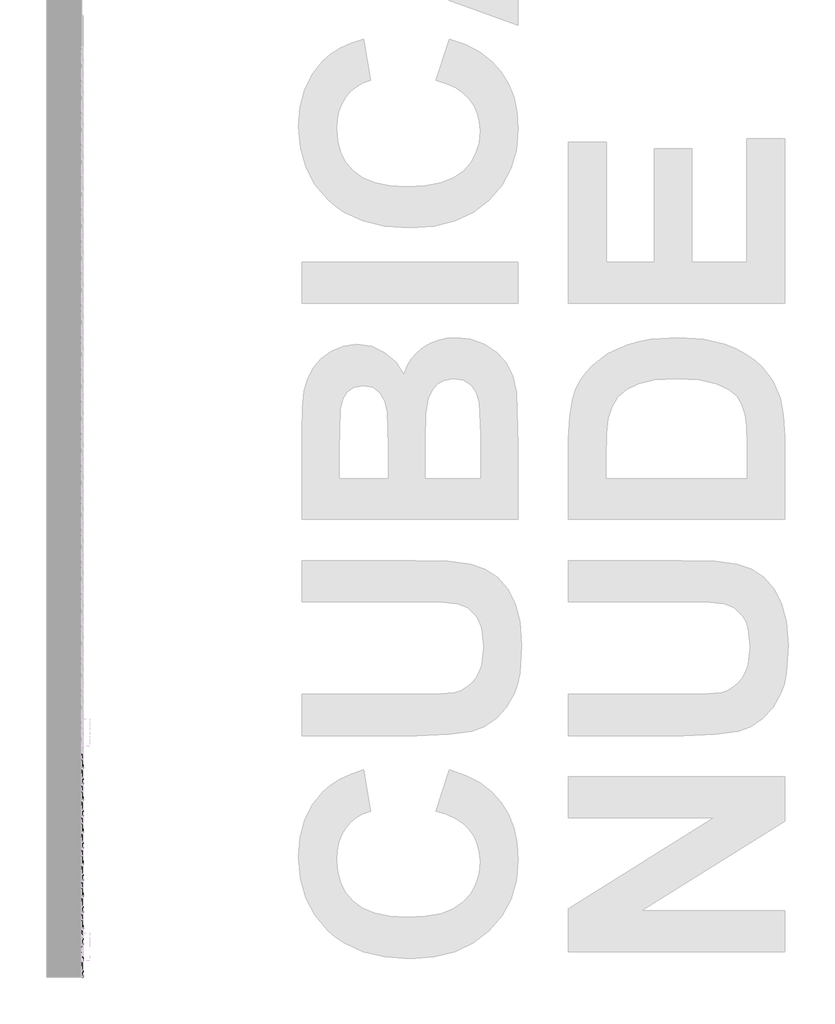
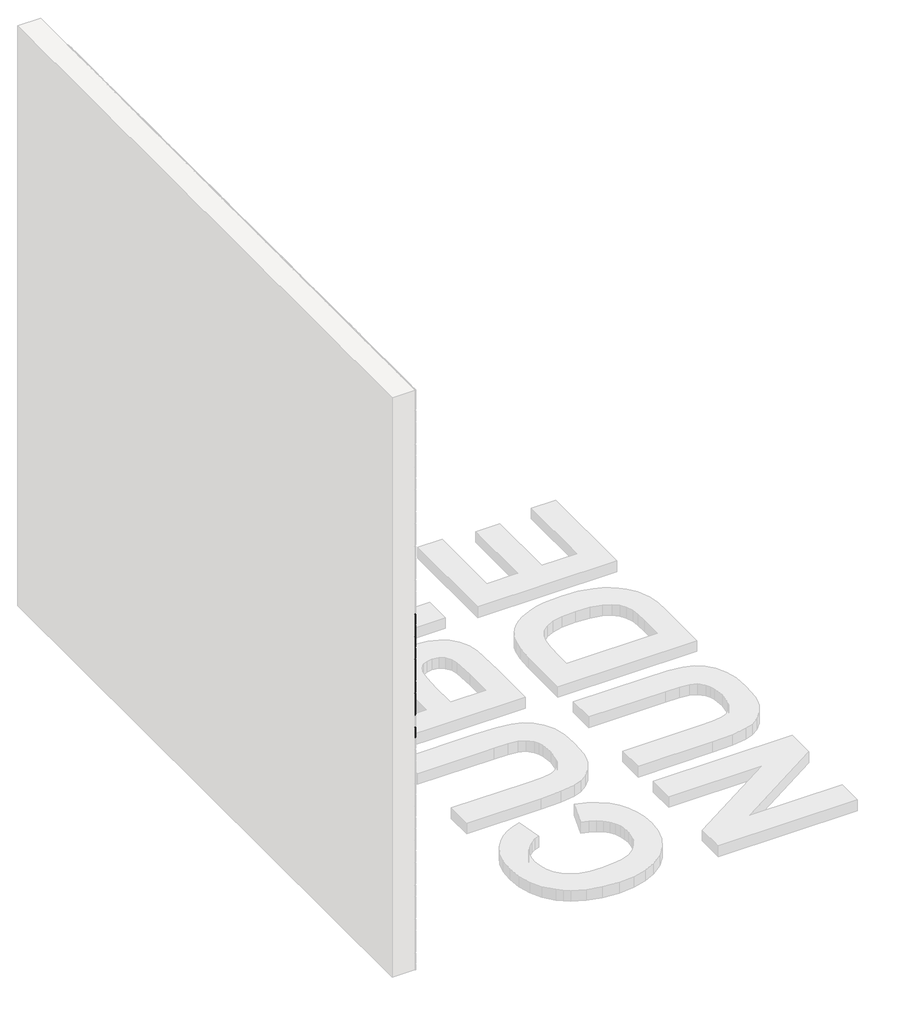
# One storey, part 51 of 121: 144 proxies.
"""IFC4 building model written with IfcOpenShell, lengths in millimetres."""

from ifc_helpers import new_model, si_unit, origin, place, context, project, spatial, transform, mapped, element, save
from components import generic_models_b2b2c5c1, generic_models_9bf73f6f, generic_models_5d175859, generic_models_45888c4d

model = new_model("IFC4")

# Units and contexts
model_context = context("Model", 3, world=origin())
ifc_project = project(units=[si_unit("LENGTHUNIT", "METRE", prefix="MILLI")], contexts=[model_context])

# Site, building, storey
site = spatial("IfcSite", under=ifc_project)
building = spatial("IfcBuilding", under=site)
storey = spatial("IfcBuildingStorey", under=building, Name="PORTOBELLO - SHOWROOM", Elevation=0.0)

# Proxies
placement = place(None, origin())
generic_models_shape = generic_models_b2b2c5c1(model_context)
element("IfcBuildingElementProxy", 1, Name="PBSHOP - CUBICA NUDE 4,8X8,3 : CUBICA NUDE - POSIÇÃO 01", ObjectType="PBSHOP - CUBICA NUDE 4,8X8,3 : CUBICA NUDE - POSIÇÃO 01", at=placement, inside=storey, context=model_context, shape_type="MappedRepresentation", body=[
    mapped(generic_models_shape, transform((150369.5341846, 6850.7440918, 1144.507104), x_axis=(0.0, 1.0, 0.0), y_axis=(0.0, 0.0, 1.0), z_axis=(1.0, 0.0, 0.0))),
])
element("IfcBuildingElementProxy", 2, Name="PBSHOP - CUBICA NUDE 4,8X8,3 : CUBICA NUDE - POSIÇÃO 01", ObjectType="PBSHOP - CUBICA NUDE 4,8X8,3 : CUBICA NUDE - POSIÇÃO 01", at=placement, inside=storey, context=model_context, shape_type="MappedRepresentation", body=[
    mapped(generic_models_shape, transform((150369.5341846, 6941.583361, 1144.507104), x_axis=(0.0, 1.0, 0.0), y_axis=(0.0, 0.0, 1.0), z_axis=(1.0, 0.0, 0.0))),
])
element("IfcBuildingElementProxy", 3, Name="PBSHOP - CUBICA NUDE 4,8X8,3 : CUBICA NUDE - POSIÇÃO 01", ObjectType="PBSHOP - CUBICA NUDE 4,8X8,3 : CUBICA NUDE - POSIÇÃO 01", at=placement, inside=storey, context=model_context, shape_type="MappedRepresentation", body=[
    mapped(generic_models_shape, transform((150369.5341846, 6441.9673802, 1223.4417424), x_axis=(0.0, 1.0, 0.0), y_axis=(0.0, 0.0, 1.0), z_axis=(1.0, 0.0, 0.0))),
])
element("IfcBuildingElementProxy", 4, Name="PBSHOP - CUBICA NUDE 4,8X8,3 : CUBICA NUDE - POSIÇÃO 01", ObjectType="PBSHOP - CUBICA NUDE 4,8X8,3 : CUBICA NUDE - POSIÇÃO 01", at=placement, inside=storey, context=model_context, shape_type="MappedRepresentation", body=[
    mapped(generic_models_shape, transform((150369.5341846, 6532.8066494, 1223.4417424), x_axis=(0.0, 1.0, 0.0), y_axis=(0.0, 0.0, 1.0), z_axis=(1.0, 0.0, 0.0))),
])
element("IfcBuildingElementProxy", 5, Name="PBSHOP - CUBICA NUDE 4,8X8,3 : CUBICA NUDE - POSIÇÃO 01", ObjectType="PBSHOP - CUBICA NUDE 4,8X8,3 : CUBICA NUDE - POSIÇÃO 01", at=placement, inside=storey, context=model_context, shape_type="MappedRepresentation", body=[
    mapped(generic_models_shape, transform((150369.5341846, 6623.6459187, 1223.4417424), x_axis=(0.0, 1.0, 0.0), y_axis=(0.0, 0.0, 1.0), z_axis=(1.0, 0.0, 0.0))),
])
element("IfcBuildingElementProxy", 6, Name="PBSHOP - CUBICA NUDE 4,8X8,3 : CUBICA NUDE - POSIÇÃO 01", ObjectType="PBSHOP - CUBICA NUDE 4,8X8,3 : CUBICA NUDE - POSIÇÃO 01", at=placement, inside=storey, context=model_context, shape_type="MappedRepresentation", body=[
    mapped(generic_models_shape, transform((150369.5341846, 6714.4851879, 1223.4417424), x_axis=(0.0, 1.0, 0.0), y_axis=(0.0, 0.0, 1.0), z_axis=(1.0, 0.0, 0.0))),
])
element("IfcBuildingElementProxy", 7, Name="PBSHOP - CUBICA NUDE 4,8X8,3 : CUBICA NUDE - POSIÇÃO 01", ObjectType="PBSHOP - CUBICA NUDE 4,8X8,3 : CUBICA NUDE - POSIÇÃO 01", at=placement, inside=storey, context=model_context, shape_type="MappedRepresentation", body=[
    mapped(generic_models_shape, transform((150369.5341846, 6805.3244572, 1223.4417424), x_axis=(0.0, 1.0, 0.0), y_axis=(0.0, 0.0, 1.0), z_axis=(1.0, 0.0, 0.0))),
])
element("IfcBuildingElementProxy", 8, Name="PBSHOP - CUBICA NUDE 4,8X8,3 : CUBICA NUDE - POSIÇÃO 01", ObjectType="PBSHOP - CUBICA NUDE 4,8X8,3 : CUBICA NUDE - POSIÇÃO 01", at=placement, inside=storey, context=model_context, shape_type="MappedRepresentation", body=[
    mapped(generic_models_shape, transform((150369.5341846, 6896.1637264, 1223.4417424), x_axis=(0.0, 1.0, 0.0), y_axis=(0.0, 0.0, 1.0), z_axis=(1.0, 0.0, 0.0))),
])
element("IfcBuildingElementProxy", 9, Name="PBSHOP - CUBICA NUDE 4,8X8,3 : CUBICA NUDE - POSIÇÃO 01", ObjectType="PBSHOP - CUBICA NUDE 4,8X8,3 : CUBICA NUDE - POSIÇÃO 01", at=placement, inside=storey, context=model_context, shape_type="MappedRepresentation", body=[
    mapped(generic_models_shape, transform((150369.5341846, 6987.0029957, 1223.4417424), x_axis=(0.0, 1.0, 0.0), y_axis=(0.0, 0.0, 1.0), z_axis=(1.0, 0.0, 0.0))),
])
element("IfcBuildingElementProxy", 10, Name="PBSHOP - CUBICA NUDE 4,8X8,3 : CUBICA NUDE - POSIÇÃO 01", ObjectType="PBSHOP - CUBICA NUDE 4,8X8,3 : CUBICA NUDE - POSIÇÃO 01", at=placement, inside=storey, context=model_context, shape_type="MappedRepresentation", body=[
    mapped(generic_models_shape, transform((150369.5341846, 6396.5477456, 1302.3763808), x_axis=(0.0, 1.0, 0.0), y_axis=(0.0, 0.0, 1.0), z_axis=(1.0, 0.0, 0.0))),
])
element("IfcBuildingElementProxy", 11, Name="PBSHOP - CUBICA NUDE 4,8X8,3 : CUBICA NUDE - POSIÇÃO 01", ObjectType="PBSHOP - CUBICA NUDE 4,8X8,3 : CUBICA NUDE - POSIÇÃO 01", at=placement, inside=storey, context=model_context, shape_type="MappedRepresentation", body=[
    mapped(generic_models_shape, transform((150369.5341846, 6487.3870148, 1302.3763808), x_axis=(0.0, 1.0, 0.0), y_axis=(0.0, 0.0, 1.0), z_axis=(1.0, 0.0, 0.0))),
])
element("IfcBuildingElementProxy", 12, Name="PBSHOP - CUBICA NUDE 4,8X8,3 : CUBICA NUDE - POSIÇÃO 01", ObjectType="PBSHOP - CUBICA NUDE 4,8X8,3 : CUBICA NUDE - POSIÇÃO 01", at=placement, inside=storey, context=model_context, shape_type="MappedRepresentation", body=[
    mapped(generic_models_shape, transform((150369.5341846, 6578.2262841, 1302.3763808), x_axis=(0.0, 1.0, 0.0), y_axis=(0.0, 0.0, 1.0), z_axis=(1.0, 0.0, 0.0))),
])
element("IfcBuildingElementProxy", 13, Name="PBSHOP - CUBICA NUDE 4,8X8,3 : CUBICA NUDE - POSIÇÃO 01", ObjectType="PBSHOP - CUBICA NUDE 4,8X8,3 : CUBICA NUDE - POSIÇÃO 01", at=placement, inside=storey, context=model_context, shape_type="MappedRepresentation", body=[
    mapped(generic_models_shape, transform((150369.5341846, 6669.0655533, 1302.3763808), x_axis=(0.0, 1.0, 0.0), y_axis=(0.0, 0.0, 1.0), z_axis=(1.0, 0.0, 0.0))),
])
element("IfcBuildingElementProxy", 14, Name="PBSHOP - CUBICA NUDE 4,8X8,3 : CUBICA NUDE - POSIÇÃO 01", ObjectType="PBSHOP - CUBICA NUDE 4,8X8,3 : CUBICA NUDE - POSIÇÃO 01", at=placement, inside=storey, context=model_context, shape_type="MappedRepresentation", body=[
    mapped(generic_models_shape, transform((150369.5341846, 6759.9048225, 1302.3763808), x_axis=(0.0, 1.0, 0.0), y_axis=(0.0, 0.0, 1.0), z_axis=(1.0, 0.0, 0.0))),
])
element("IfcBuildingElementProxy", 15, Name="PBSHOP - CUBICA NUDE 4,8X8,3 : CUBICA NUDE - POSIÇÃO 01", ObjectType="PBSHOP - CUBICA NUDE 4,8X8,3 : CUBICA NUDE - POSIÇÃO 01", at=placement, inside=storey, context=model_context, shape_type="MappedRepresentation", body=[
    mapped(generic_models_shape, transform((150369.5341846, 6850.7440918, 1302.3763808), x_axis=(0.0, 1.0, 0.0), y_axis=(0.0, 0.0, 1.0), z_axis=(1.0, 0.0, 0.0))),
])
element("IfcBuildingElementProxy", 16, Name="PBSHOP - CUBICA NUDE 4,8X8,3 : CUBICA NUDE - POSIÇÃO 01", ObjectType="PBSHOP - CUBICA NUDE 4,8X8,3 : CUBICA NUDE - POSIÇÃO 01", at=placement, inside=storey, context=model_context, shape_type="MappedRepresentation", body=[
    mapped(generic_models_shape, transform((150369.5341846, 6941.583361, 1302.3763808), x_axis=(0.0, 1.0, 0.0), y_axis=(0.0, 0.0, 1.0), z_axis=(1.0, 0.0, 0.0))),
])
element("IfcBuildingElementProxy", 17, Name="PBSHOP - CUBICA NUDE 4,8X8,3 : CUBICA NUDE - POSIÇÃO 01", ObjectType="PBSHOP - CUBICA NUDE 4,8X8,3 : CUBICA NUDE - POSIÇÃO 01", at=placement, inside=storey, context=model_context, shape_type="MappedRepresentation", body=[
    mapped(generic_models_shape, transform((150369.5341846, 6441.9673802, 1381.3110192), x_axis=(0.0, 1.0, 0.0), y_axis=(0.0, 0.0, 1.0), z_axis=(1.0, 0.0, 0.0))),
])
element("IfcBuildingElementProxy", 18, Name="PBSHOP - CUBICA NUDE 4,8X8,3 : CUBICA NUDE - POSIÇÃO 01", ObjectType="PBSHOP - CUBICA NUDE 4,8X8,3 : CUBICA NUDE - POSIÇÃO 01", at=placement, inside=storey, context=model_context, shape_type="MappedRepresentation", body=[
    mapped(generic_models_shape, transform((150369.5341846, 6532.8066494, 1381.3110192), x_axis=(0.0, 1.0, 0.0), y_axis=(0.0, 0.0, 1.0), z_axis=(1.0, 0.0, 0.0))),
])
element("IfcBuildingElementProxy", 19, Name="PBSHOP - CUBICA NUDE 4,8X8,3 : CUBICA NUDE - POSIÇÃO 01", ObjectType="PBSHOP - CUBICA NUDE 4,8X8,3 : CUBICA NUDE - POSIÇÃO 01", at=placement, inside=storey, context=model_context, shape_type="MappedRepresentation", body=[
    mapped(generic_models_shape, transform((150369.5341846, 6623.6459187, 1381.3110192), x_axis=(0.0, 1.0, 0.0), y_axis=(0.0, 0.0, 1.0), z_axis=(1.0, 0.0, 0.0))),
])
element("IfcBuildingElementProxy", 20, Name="PBSHOP - CUBICA NUDE 4,8X8,3 : CUBICA NUDE - POSIÇÃO 01", ObjectType="PBSHOP - CUBICA NUDE 4,8X8,3 : CUBICA NUDE - POSIÇÃO 01", at=placement, inside=storey, context=model_context, shape_type="MappedRepresentation", body=[
    mapped(generic_models_shape, transform((150369.5341846, 6714.4851879, 1381.3110192), x_axis=(0.0, 1.0, 0.0), y_axis=(0.0, 0.0, 1.0), z_axis=(1.0, 0.0, 0.0))),
])
element("IfcBuildingElementProxy", 21, Name="PBSHOP - CUBICA NUDE 4,8X8,3 : CUBICA NUDE - POSIÇÃO 01", ObjectType="PBSHOP - CUBICA NUDE 4,8X8,3 : CUBICA NUDE - POSIÇÃO 01", at=placement, inside=storey, context=model_context, shape_type="MappedRepresentation", body=[
    mapped(generic_models_shape, transform((150369.5341846, 6805.3244572, 1381.3110192), x_axis=(0.0, 1.0, 0.0), y_axis=(0.0, 0.0, 1.0), z_axis=(1.0, 0.0, 0.0))),
])
element("IfcBuildingElementProxy", 22, Name="PBSHOP - CUBICA NUDE 4,8X8,3 : CUBICA NUDE - POSIÇÃO 01", ObjectType="PBSHOP - CUBICA NUDE 4,8X8,3 : CUBICA NUDE - POSIÇÃO 01", at=placement, inside=storey, context=model_context, shape_type="MappedRepresentation", body=[
    mapped(generic_models_shape, transform((150369.5341846, 6896.1637264, 1381.3110192), x_axis=(0.0, 1.0, 0.0), y_axis=(0.0, 0.0, 1.0), z_axis=(1.0, 0.0, 0.0))),
])
element("IfcBuildingElementProxy", 23, Name="PBSHOP - CUBICA NUDE 4,8X8,3 : CUBICA NUDE - POSIÇÃO 01", ObjectType="PBSHOP - CUBICA NUDE 4,8X8,3 : CUBICA NUDE - POSIÇÃO 01", at=placement, inside=storey, context=model_context, shape_type="MappedRepresentation", body=[
    mapped(generic_models_shape, transform((150369.5341846, 6987.0029957, 1381.3110192), x_axis=(0.0, 1.0, 0.0), y_axis=(0.0, 0.0, 1.0), z_axis=(1.0, 0.0, 0.0))),
])
element("IfcBuildingElementProxy", 24, Name="PBSHOP - CUBICA NUDE 4,8X8,3 : CUBICA NUDE - POSIÇÃO 01", ObjectType="PBSHOP - CUBICA NUDE 4,8X8,3 : CUBICA NUDE - POSIÇÃO 01", at=placement, inside=storey, context=model_context, shape_type="MappedRepresentation", body=[
    mapped(generic_models_shape, transform((150369.5341846, 6396.5477456, 1460.2456575), x_axis=(0.0, 1.0, 0.0), y_axis=(0.0, 0.0, 1.0), z_axis=(1.0, 0.0, 0.0))),
])
element("IfcBuildingElementProxy", 25, Name="PBSHOP - CUBICA NUDE 4,8X8,3 : CUBICA NUDE - POSIÇÃO 01", ObjectType="PBSHOP - CUBICA NUDE 4,8X8,3 : CUBICA NUDE - POSIÇÃO 01", at=placement, inside=storey, context=model_context, shape_type="MappedRepresentation", body=[
    mapped(generic_models_shape, transform((150369.5341846, 6487.3870148, 1460.2456575), x_axis=(0.0, 1.0, 0.0), y_axis=(0.0, 0.0, 1.0), z_axis=(1.0, 0.0, 0.0))),
])
element("IfcBuildingElementProxy", 26, Name="PBSHOP - CUBICA NUDE 4,8X8,3 : CUBICA NUDE - POSIÇÃO 01", ObjectType="PBSHOP - CUBICA NUDE 4,8X8,3 : CUBICA NUDE - POSIÇÃO 01", at=placement, inside=storey, context=model_context, shape_type="MappedRepresentation", body=[
    mapped(generic_models_shape, transform((150369.5341846, 6578.2262841, 1460.2456575), x_axis=(0.0, 1.0, 0.0), y_axis=(0.0, 0.0, 1.0), z_axis=(1.0, 0.0, 0.0))),
])
element("IfcBuildingElementProxy", 27, Name="PBSHOP - CUBICA NUDE 4,8X8,3 : CUBICA NUDE - POSIÇÃO 01", ObjectType="PBSHOP - CUBICA NUDE 4,8X8,3 : CUBICA NUDE - POSIÇÃO 01", at=placement, inside=storey, context=model_context, shape_type="MappedRepresentation", body=[
    mapped(generic_models_shape, transform((150369.5341846, 6669.0655533, 1460.2456575), x_axis=(0.0, 1.0, 0.0), y_axis=(0.0, 0.0, 1.0), z_axis=(1.0, 0.0, 0.0))),
])
element("IfcBuildingElementProxy", 28, Name="PBSHOP - CUBICA NUDE 4,8X8,3 : CUBICA NUDE - POSIÇÃO 01", ObjectType="PBSHOP - CUBICA NUDE 4,8X8,3 : CUBICA NUDE - POSIÇÃO 01", at=placement, inside=storey, context=model_context, shape_type="MappedRepresentation", body=[
    mapped(generic_models_shape, transform((150369.5341846, 6759.9048225, 1460.2456575), x_axis=(0.0, 1.0, 0.0), y_axis=(0.0, 0.0, 1.0), z_axis=(1.0, 0.0, 0.0))),
])
element("IfcBuildingElementProxy", 29, Name="PBSHOP - CUBICA NUDE 4,8X8,3 : CUBICA NUDE - POSIÇÃO 01", ObjectType="PBSHOP - CUBICA NUDE 4,8X8,3 : CUBICA NUDE - POSIÇÃO 01", at=placement, inside=storey, context=model_context, shape_type="MappedRepresentation", body=[
    mapped(generic_models_shape, transform((150369.5341846, 6850.7440918, 1460.2456575), x_axis=(0.0, 1.0, 0.0), y_axis=(0.0, 0.0, 1.0), z_axis=(1.0, 0.0, 0.0))),
])
element("IfcBuildingElementProxy", 30, Name="PBSHOP - CUBICA NUDE 4,8X8,3 : CUBICA NUDE - POSIÇÃO 01", ObjectType="PBSHOP - CUBICA NUDE 4,8X8,3 : CUBICA NUDE - POSIÇÃO 01", at=placement, inside=storey, context=model_context, shape_type="MappedRepresentation", body=[
    mapped(generic_models_shape, transform((150369.5341846, 6941.583361, 1460.2456575), x_axis=(0.0, 1.0, 0.0), y_axis=(0.0, 0.0, 1.0), z_axis=(1.0, 0.0, 0.0))),
])
element("IfcBuildingElementProxy", 31, Name="PBSHOP - CUBICA NUDE 4,8X8,3 : CUBICA NUDE - POSIÇÃO 01", ObjectType="PBSHOP - CUBICA NUDE 4,8X8,3 : CUBICA NUDE - POSIÇÃO 01", at=placement, inside=storey, context=model_context, shape_type="MappedRepresentation", body=[
    mapped(generic_models_shape, transform((150369.5341846, 6441.9673802, 1539.1802959), x_axis=(0.0, 1.0, 0.0), y_axis=(0.0, 0.0, 1.0), z_axis=(1.0, 0.0, 0.0))),
])
element("IfcBuildingElementProxy", 32, Name="PBSHOP - CUBICA NUDE 4,8X8,3 : CUBICA NUDE - POSIÇÃO 01", ObjectType="PBSHOP - CUBICA NUDE 4,8X8,3 : CUBICA NUDE - POSIÇÃO 01", at=placement, inside=storey, context=model_context, shape_type="MappedRepresentation", body=[
    mapped(generic_models_shape, transform((150369.5341846, 6532.8066494, 1539.1802959), x_axis=(0.0, 1.0, 0.0), y_axis=(0.0, 0.0, 1.0), z_axis=(1.0, 0.0, 0.0))),
])
element("IfcBuildingElementProxy", 33, Name="PBSHOP - CUBICA NUDE 4,8X8,3 : CUBICA NUDE - POSIÇÃO 01", ObjectType="PBSHOP - CUBICA NUDE 4,8X8,3 : CUBICA NUDE - POSIÇÃO 01", at=placement, inside=storey, context=model_context, shape_type="MappedRepresentation", body=[
    mapped(generic_models_shape, transform((150369.5341846, 6623.6459187, 1539.1802959), x_axis=(0.0, 1.0, 0.0), y_axis=(0.0, 0.0, 1.0), z_axis=(1.0, 0.0, 0.0))),
])
element("IfcBuildingElementProxy", 34, Name="PBSHOP - CUBICA NUDE 4,8X8,3 : CUBICA NUDE - POSIÇÃO 01", ObjectType="PBSHOP - CUBICA NUDE 4,8X8,3 : CUBICA NUDE - POSIÇÃO 01", at=placement, inside=storey, context=model_context, shape_type="MappedRepresentation", body=[
    mapped(generic_models_shape, transform((150369.5341846, 6714.4851879, 1539.1802959), x_axis=(0.0, 1.0, 0.0), y_axis=(0.0, 0.0, 1.0), z_axis=(1.0, 0.0, 0.0))),
])
element("IfcBuildingElementProxy", 35, Name="PBSHOP - CUBICA NUDE 4,8X8,3 : CUBICA NUDE - POSIÇÃO 01", ObjectType="PBSHOP - CUBICA NUDE 4,8X8,3 : CUBICA NUDE - POSIÇÃO 01", at=placement, inside=storey, context=model_context, shape_type="MappedRepresentation", body=[
    mapped(generic_models_shape, transform((150369.5341846, 6805.3244572, 1539.1802959), x_axis=(0.0, 1.0, 0.0), y_axis=(0.0, 0.0, 1.0), z_axis=(1.0, 0.0, 0.0))),
])
element("IfcBuildingElementProxy", 36, Name="PBSHOP - CUBICA NUDE 4,8X8,3 : CUBICA NUDE - POSIÇÃO 01", ObjectType="PBSHOP - CUBICA NUDE 4,8X8,3 : CUBICA NUDE - POSIÇÃO 01", at=placement, inside=storey, context=model_context, shape_type="MappedRepresentation", body=[
    mapped(generic_models_shape, transform((150369.5341846, 6896.1637264, 1539.1802959), x_axis=(0.0, 1.0, 0.0), y_axis=(0.0, 0.0, 1.0), z_axis=(1.0, 0.0, 0.0))),
])
element("IfcBuildingElementProxy", 37, Name="PBSHOP - CUBICA NUDE 4,8X8,3 : CUBICA NUDE - POSIÇÃO 01", ObjectType="PBSHOP - CUBICA NUDE 4,8X8,3 : CUBICA NUDE - POSIÇÃO 01", at=placement, inside=storey, context=model_context, shape_type="MappedRepresentation", body=[
    mapped(generic_models_shape, transform((150369.5341846, 6987.0029957, 1539.1802959), x_axis=(0.0, 1.0, 0.0), y_axis=(0.0, 0.0, 1.0), z_axis=(1.0, 0.0, 0.0))),
])
element("IfcBuildingElementProxy", 38, Name="PBSHOP - CUBICA NUDE 4,8X8,3 : CUBICA NUDE - POSIÇÃO 01", ObjectType="PBSHOP - CUBICA NUDE 4,8X8,3 : CUBICA NUDE - POSIÇÃO 01", at=placement, inside=storey, context=model_context, shape_type="MappedRepresentation", body=[
    mapped(generic_models_shape, transform((150369.5341846, 6396.5477456, 1618.1149343), x_axis=(0.0, 1.0, 0.0), y_axis=(0.0, 0.0, 1.0), z_axis=(1.0, 0.0, 0.0))),
])
element("IfcBuildingElementProxy", 39, Name="PBSHOP - CUBICA NUDE 4,8X8,3 : CUBICA NUDE - POSIÇÃO 01", ObjectType="PBSHOP - CUBICA NUDE 4,8X8,3 : CUBICA NUDE - POSIÇÃO 01", at=placement, inside=storey, context=model_context, shape_type="MappedRepresentation", body=[
    mapped(generic_models_shape, transform((150369.5341846, 6487.3870148, 1618.1149343), x_axis=(0.0, 1.0, 0.0), y_axis=(0.0, 0.0, 1.0), z_axis=(1.0, 0.0, 0.0))),
])
element("IfcBuildingElementProxy", 40, Name="PBSHOP - CUBICA NUDE 4,8X8,3 : CUBICA NUDE - POSIÇÃO 01", ObjectType="PBSHOP - CUBICA NUDE 4,8X8,3 : CUBICA NUDE - POSIÇÃO 01", at=placement, inside=storey, context=model_context, shape_type="MappedRepresentation", body=[
    mapped(generic_models_shape, transform((150369.5341846, 6578.2262841, 1618.1149343), x_axis=(0.0, 1.0, 0.0), y_axis=(0.0, 0.0, 1.0), z_axis=(1.0, 0.0, 0.0))),
])
element("IfcBuildingElementProxy", 41, Name="PBSHOP - CUBICA NUDE 4,8X8,3 : CUBICA NUDE - POSIÇÃO 01", ObjectType="PBSHOP - CUBICA NUDE 4,8X8,3 : CUBICA NUDE - POSIÇÃO 01", at=placement, inside=storey, context=model_context, shape_type="MappedRepresentation", body=[
    mapped(generic_models_shape, transform((150369.5341846, 6669.0655533, 1618.1149343), x_axis=(0.0, 1.0, 0.0), y_axis=(0.0, 0.0, 1.0), z_axis=(1.0, 0.0, 0.0))),
])
element("IfcBuildingElementProxy", 42, Name="PBSHOP - CUBICA NUDE 4,8X8,3 : CUBICA NUDE - POSIÇÃO 01", ObjectType="PBSHOP - CUBICA NUDE 4,8X8,3 : CUBICA NUDE - POSIÇÃO 01", at=placement, inside=storey, context=model_context, shape_type="MappedRepresentation", body=[
    mapped(generic_models_shape, transform((150369.5341846, 6759.9048225, 1618.1149343), x_axis=(0.0, 1.0, 0.0), y_axis=(0.0, 0.0, 1.0), z_axis=(1.0, 0.0, 0.0))),
])
element("IfcBuildingElementProxy", 43, Name="PBSHOP - CUBICA NUDE 4,8X8,3 : CUBICA NUDE - POSIÇÃO 01", ObjectType="PBSHOP - CUBICA NUDE 4,8X8,3 : CUBICA NUDE - POSIÇÃO 01", at=placement, inside=storey, context=model_context, shape_type="MappedRepresentation", body=[
    mapped(generic_models_shape, transform((150369.5341846, 6850.7440918, 1618.1149343), x_axis=(0.0, 1.0, 0.0), y_axis=(0.0, 0.0, 1.0), z_axis=(1.0, 0.0, 0.0))),
])
element("IfcBuildingElementProxy", 44, Name="PBSHOP - CUBICA NUDE 4,8X8,3 : CUBICA NUDE - POSIÇÃO 01", ObjectType="PBSHOP - CUBICA NUDE 4,8X8,3 : CUBICA NUDE - POSIÇÃO 01", at=placement, inside=storey, context=model_context, shape_type="MappedRepresentation", body=[
    mapped(generic_models_shape, transform((150369.5341846, 6941.583361, 1618.1149343), x_axis=(0.0, 1.0, 0.0), y_axis=(0.0, 0.0, 1.0), z_axis=(1.0, 0.0, 0.0))),
])
element("IfcBuildingElementProxy", 45, Name="PBSHOP - CUBICA NUDE 4,8X8,3 : CUBICA NUDE - POSIÇÃO 01", ObjectType="PBSHOP - CUBICA NUDE 4,8X8,3 : CUBICA NUDE - POSIÇÃO 01", at=placement, inside=storey, context=model_context, shape_type="MappedRepresentation", body=[
    mapped(generic_models_shape, transform((150369.5341846, 6441.9673802, 1697.0495727), x_axis=(0.0, 1.0, 0.0), y_axis=(0.0, 0.0, 1.0), z_axis=(1.0, 0.0, 0.0))),
])
element("IfcBuildingElementProxy", 46, Name="PBSHOP - CUBICA NUDE 4,8X8,3 : CUBICA NUDE - POSIÇÃO 01", ObjectType="PBSHOP - CUBICA NUDE 4,8X8,3 : CUBICA NUDE - POSIÇÃO 01", at=placement, inside=storey, context=model_context, shape_type="MappedRepresentation", body=[
    mapped(generic_models_shape, transform((150369.5341846, 6532.8066494, 1697.0495727), x_axis=(0.0, 1.0, 0.0), y_axis=(0.0, 0.0, 1.0), z_axis=(1.0, 0.0, 0.0))),
])
element("IfcBuildingElementProxy", 47, Name="PBSHOP - CUBICA NUDE 4,8X8,3 : CUBICA NUDE - POSIÇÃO 01", ObjectType="PBSHOP - CUBICA NUDE 4,8X8,3 : CUBICA NUDE - POSIÇÃO 01", at=placement, inside=storey, context=model_context, shape_type="MappedRepresentation", body=[
    mapped(generic_models_shape, transform((150369.5341846, 6623.6459187, 1697.0495727), x_axis=(0.0, 1.0, 0.0), y_axis=(0.0, 0.0, 1.0), z_axis=(1.0, 0.0, 0.0))),
])
generic_models_2_shape = generic_models_9bf73f6f(model_context)
element("IfcBuildingElementProxy", 48, Name="PBSHOP - CUBICA NUDE 4,8X8,3 : CUBICA NUDE - POSIÇÃO 03", ObjectType="PBSHOP - CUBICA NUDE 4,8X8,3 : CUBICA NUDE - POSIÇÃO 03", at=placement, inside=storey, context=model_context, shape_type="MappedRepresentation", body=[
    mapped(generic_models_2_shape, transform((150369.5341846, 6464.6793567, 1104.9985744), x_axis=(0.0, 1.0, 0.0), y_axis=(0.0, 0.0, 1.0), z_axis=(1.0, 0.0, 0.0))),
])
element("IfcBuildingElementProxy", 49, Name="PBSHOP - CUBICA NUDE 4,8X8,3 : CUBICA NUDE - POSIÇÃO 03", ObjectType="PBSHOP - CUBICA NUDE 4,8X8,3 : CUBICA NUDE - POSIÇÃO 03", at=placement, inside=storey, context=model_context, shape_type="MappedRepresentation", body=[
    mapped(generic_models_2_shape, transform((150369.5341846, 6555.5186259, 1104.9985744), x_axis=(0.0, 1.0, 0.0), y_axis=(0.0, 0.0, 1.0), z_axis=(1.0, 0.0, 0.0))),
])
element("IfcBuildingElementProxy", 50, Name="PBSHOP - CUBICA NUDE 4,8X8,3 : CUBICA NUDE - POSIÇÃO 03", ObjectType="PBSHOP - CUBICA NUDE 4,8X8,3 : CUBICA NUDE - POSIÇÃO 03", at=placement, inside=storey, context=model_context, shape_type="MappedRepresentation", body=[
    mapped(generic_models_2_shape, transform((150369.5341846, 6646.3578952, 1104.9985744), x_axis=(0.0, 1.0, 0.0), y_axis=(0.0, 0.0, 1.0), z_axis=(1.0, 0.0, 0.0))),
])
element("IfcBuildingElementProxy", 51, Name="PBSHOP - CUBICA NUDE 4,8X8,3 : CUBICA NUDE - POSIÇÃO 03", ObjectType="PBSHOP - CUBICA NUDE 4,8X8,3 : CUBICA NUDE - POSIÇÃO 03", at=placement, inside=storey, context=model_context, shape_type="MappedRepresentation", body=[
    mapped(generic_models_2_shape, transform((150369.5341846, 6737.1971644, 1104.9985744), x_axis=(0.0, 1.0, 0.0), y_axis=(0.0, 0.0, 1.0), z_axis=(1.0, 0.0, 0.0))),
])
element("IfcBuildingElementProxy", 52, Name="PBSHOP - CUBICA NUDE 4,8X8,3 : CUBICA NUDE - POSIÇÃO 03", ObjectType="PBSHOP - CUBICA NUDE 4,8X8,3 : CUBICA NUDE - POSIÇÃO 03", at=placement, inside=storey, context=model_context, shape_type="MappedRepresentation", body=[
    mapped(generic_models_2_shape, transform((150369.5341846, 6828.0364336, 1104.9985744), x_axis=(0.0, 1.0, 0.0), y_axis=(0.0, 0.0, 1.0), z_axis=(1.0, 0.0, 0.0))),
])
element("IfcBuildingElementProxy", 53, Name="PBSHOP - CUBICA NUDE 4,8X8,3 : CUBICA NUDE - POSIÇÃO 03", ObjectType="PBSHOP - CUBICA NUDE 4,8X8,3 : CUBICA NUDE - POSIÇÃO 03", at=placement, inside=storey, context=model_context, shape_type="MappedRepresentation", body=[
    mapped(generic_models_2_shape, transform((150369.5341846, 6918.8757029, 1104.9985744), x_axis=(0.0, 1.0, 0.0), y_axis=(0.0, 0.0, 1.0), z_axis=(1.0, 0.0, 0.0))),
])
element("IfcBuildingElementProxy", 54, Name="PBSHOP - CUBICA NUDE 4,8X8,3 : CUBICA NUDE - POSIÇÃO 03", ObjectType="PBSHOP - CUBICA NUDE 4,8X8,3 : CUBICA NUDE - POSIÇÃO 03", at=placement, inside=storey, context=model_context, shape_type="MappedRepresentation", body=[
    mapped(generic_models_2_shape, transform((150369.5341846, 6419.259722, 1183.9332128), x_axis=(0.0, 1.0, 0.0), y_axis=(0.0, 0.0, 1.0), z_axis=(1.0, 0.0, 0.0))),
])
element("IfcBuildingElementProxy", 55, Name="PBSHOP - CUBICA NUDE 4,8X8,3 : CUBICA NUDE - POSIÇÃO 03", ObjectType="PBSHOP - CUBICA NUDE 4,8X8,3 : CUBICA NUDE - POSIÇÃO 03", at=placement, inside=storey, context=model_context, shape_type="MappedRepresentation", body=[
    mapped(generic_models_2_shape, transform((150369.5341846, 6510.0989913, 1183.9332128), x_axis=(0.0, 1.0, 0.0), y_axis=(0.0, 0.0, 1.0), z_axis=(1.0, 0.0, 0.0))),
])
element("IfcBuildingElementProxy", 56, Name="PBSHOP - CUBICA NUDE 4,8X8,3 : CUBICA NUDE - POSIÇÃO 03", ObjectType="PBSHOP - CUBICA NUDE 4,8X8,3 : CUBICA NUDE - POSIÇÃO 03", at=placement, inside=storey, context=model_context, shape_type="MappedRepresentation", body=[
    mapped(generic_models_2_shape, transform((150369.5341846, 6600.9382605, 1183.9332128), x_axis=(0.0, 1.0, 0.0), y_axis=(0.0, 0.0, 1.0), z_axis=(1.0, 0.0, 0.0))),
])
element("IfcBuildingElementProxy", 57, Name="PBSHOP - CUBICA NUDE 4,8X8,3 : CUBICA NUDE - POSIÇÃO 03", ObjectType="PBSHOP - CUBICA NUDE 4,8X8,3 : CUBICA NUDE - POSIÇÃO 03", at=placement, inside=storey, context=model_context, shape_type="MappedRepresentation", body=[
    mapped(generic_models_2_shape, transform((150369.5341846, 6691.7775298, 1183.9332128), x_axis=(0.0, 1.0, 0.0), y_axis=(0.0, 0.0, 1.0), z_axis=(1.0, 0.0, 0.0))),
])
element("IfcBuildingElementProxy", 58, Name="PBSHOP - CUBICA NUDE 4,8X8,3 : CUBICA NUDE - POSIÇÃO 03", ObjectType="PBSHOP - CUBICA NUDE 4,8X8,3 : CUBICA NUDE - POSIÇÃO 03", at=placement, inside=storey, context=model_context, shape_type="MappedRepresentation", body=[
    mapped(generic_models_2_shape, transform((150369.5341846, 6782.616799, 1183.9332128), x_axis=(0.0, 1.0, 0.0), y_axis=(0.0, 0.0, 1.0), z_axis=(1.0, 0.0, 0.0))),
])
element("IfcBuildingElementProxy", 59, Name="PBSHOP - CUBICA NUDE 4,8X8,3 : CUBICA NUDE - POSIÇÃO 03", ObjectType="PBSHOP - CUBICA NUDE 4,8X8,3 : CUBICA NUDE - POSIÇÃO 03", at=placement, inside=storey, context=model_context, shape_type="MappedRepresentation", body=[
    mapped(generic_models_2_shape, transform((150369.5341846, 6873.4560683, 1183.9332128), x_axis=(0.0, 1.0, 0.0), y_axis=(0.0, 0.0, 1.0), z_axis=(1.0, 0.0, 0.0))),
])
element("IfcBuildingElementProxy", 60, Name="PBSHOP - CUBICA NUDE 4,8X8,3 : CUBICA NUDE - POSIÇÃO 03", ObjectType="PBSHOP - CUBICA NUDE 4,8X8,3 : CUBICA NUDE - POSIÇÃO 03", at=placement, inside=storey, context=model_context, shape_type="MappedRepresentation", body=[
    mapped(generic_models_2_shape, transform((150369.5341846, 6964.2953375, 1183.9332128), x_axis=(0.0, 1.0, 0.0), y_axis=(0.0, 0.0, 1.0), z_axis=(1.0, 0.0, 0.0))),
])
element("IfcBuildingElementProxy", 61, Name="PBSHOP - CUBICA NUDE 4,8X8,3 : CUBICA NUDE - POSIÇÃO 03", ObjectType="PBSHOP - CUBICA NUDE 4,8X8,3 : CUBICA NUDE - POSIÇÃO 03", at=placement, inside=storey, context=model_context, shape_type="MappedRepresentation", body=[
    mapped(generic_models_2_shape, transform((150369.5341846, 6464.6793567, 1262.8678512), x_axis=(0.0, 1.0, 0.0), y_axis=(0.0, 0.0, 1.0), z_axis=(1.0, 0.0, 0.0))),
])
element("IfcBuildingElementProxy", 62, Name="PBSHOP - CUBICA NUDE 4,8X8,3 : CUBICA NUDE - POSIÇÃO 03", ObjectType="PBSHOP - CUBICA NUDE 4,8X8,3 : CUBICA NUDE - POSIÇÃO 03", at=placement, inside=storey, context=model_context, shape_type="MappedRepresentation", body=[
    mapped(generic_models_2_shape, transform((150369.5341846, 6555.5186259, 1262.8678512), x_axis=(0.0, 1.0, 0.0), y_axis=(0.0, 0.0, 1.0), z_axis=(1.0, 0.0, 0.0))),
])
element("IfcBuildingElementProxy", 63, Name="PBSHOP - CUBICA NUDE 4,8X8,3 : CUBICA NUDE - POSIÇÃO 03", ObjectType="PBSHOP - CUBICA NUDE 4,8X8,3 : CUBICA NUDE - POSIÇÃO 03", at=placement, inside=storey, context=model_context, shape_type="MappedRepresentation", body=[
    mapped(generic_models_2_shape, transform((150369.5341846, 6646.3578952, 1262.8678512), x_axis=(0.0, 1.0, 0.0), y_axis=(0.0, 0.0, 1.0), z_axis=(1.0, 0.0, 0.0))),
])
element("IfcBuildingElementProxy", 64, Name="PBSHOP - CUBICA NUDE 4,8X8,3 : CUBICA NUDE - POSIÇÃO 03", ObjectType="PBSHOP - CUBICA NUDE 4,8X8,3 : CUBICA NUDE - POSIÇÃO 03", at=placement, inside=storey, context=model_context, shape_type="MappedRepresentation", body=[
    mapped(generic_models_2_shape, transform((150369.5341846, 6737.1971644, 1262.8678512), x_axis=(0.0, 1.0, 0.0), y_axis=(0.0, 0.0, 1.0), z_axis=(1.0, 0.0, 0.0))),
])
element("IfcBuildingElementProxy", 65, Name="PBSHOP - CUBICA NUDE 4,8X8,3 : CUBICA NUDE - POSIÇÃO 03", ObjectType="PBSHOP - CUBICA NUDE 4,8X8,3 : CUBICA NUDE - POSIÇÃO 03", at=placement, inside=storey, context=model_context, shape_type="MappedRepresentation", body=[
    mapped(generic_models_2_shape, transform((150369.5341846, 6828.0364336, 1262.8678512), x_axis=(0.0, 1.0, 0.0), y_axis=(0.0, 0.0, 1.0), z_axis=(1.0, 0.0, 0.0))),
])
element("IfcBuildingElementProxy", 66, Name="PBSHOP - CUBICA NUDE 4,8X8,3 : CUBICA NUDE - POSIÇÃO 03", ObjectType="PBSHOP - CUBICA NUDE 4,8X8,3 : CUBICA NUDE - POSIÇÃO 03", at=placement, inside=storey, context=model_context, shape_type="MappedRepresentation", body=[
    mapped(generic_models_2_shape, transform((150369.5341846, 6918.8757029, 1262.8678512), x_axis=(0.0, 1.0, 0.0), y_axis=(0.0, 0.0, 1.0), z_axis=(1.0, 0.0, 0.0))),
])
element("IfcBuildingElementProxy", 67, Name="PBSHOP - CUBICA NUDE 4,8X8,3 : CUBICA NUDE - POSIÇÃO 03", ObjectType="PBSHOP - CUBICA NUDE 4,8X8,3 : CUBICA NUDE - POSIÇÃO 03", at=placement, inside=storey, context=model_context, shape_type="MappedRepresentation", body=[
    mapped(generic_models_2_shape, transform((150369.5341846, 6419.259722, 1341.8024896), x_axis=(0.0, 1.0, 0.0), y_axis=(0.0, 0.0, 1.0), z_axis=(1.0, 0.0, 0.0))),
])
element("IfcBuildingElementProxy", 68, Name="PBSHOP - CUBICA NUDE 4,8X8,3 : CUBICA NUDE - POSIÇÃO 03", ObjectType="PBSHOP - CUBICA NUDE 4,8X8,3 : CUBICA NUDE - POSIÇÃO 03", at=placement, inside=storey, context=model_context, shape_type="MappedRepresentation", body=[
    mapped(generic_models_2_shape, transform((150369.5341846, 6510.0989913, 1341.8024896), x_axis=(0.0, 1.0, 0.0), y_axis=(0.0, 0.0, 1.0), z_axis=(1.0, 0.0, 0.0))),
])
element("IfcBuildingElementProxy", 69, Name="PBSHOP - CUBICA NUDE 4,8X8,3 : CUBICA NUDE - POSIÇÃO 03", ObjectType="PBSHOP - CUBICA NUDE 4,8X8,3 : CUBICA NUDE - POSIÇÃO 03", at=placement, inside=storey, context=model_context, shape_type="MappedRepresentation", body=[
    mapped(generic_models_2_shape, transform((150369.5341846, 6600.9382605, 1341.8024896), x_axis=(0.0, 1.0, 0.0), y_axis=(0.0, 0.0, 1.0), z_axis=(1.0, 0.0, 0.0))),
])
element("IfcBuildingElementProxy", 70, Name="PBSHOP - CUBICA NUDE 4,8X8,3 : CUBICA NUDE - POSIÇÃO 03", ObjectType="PBSHOP - CUBICA NUDE 4,8X8,3 : CUBICA NUDE - POSIÇÃO 03", at=placement, inside=storey, context=model_context, shape_type="MappedRepresentation", body=[
    mapped(generic_models_2_shape, transform((150369.5341846, 6691.7775298, 1341.8024896), x_axis=(0.0, 1.0, 0.0), y_axis=(0.0, 0.0, 1.0), z_axis=(1.0, 0.0, 0.0))),
])
element("IfcBuildingElementProxy", 71, Name="PBSHOP - CUBICA NUDE 4,8X8,3 : CUBICA NUDE - POSIÇÃO 03", ObjectType="PBSHOP - CUBICA NUDE 4,8X8,3 : CUBICA NUDE - POSIÇÃO 03", at=placement, inside=storey, context=model_context, shape_type="MappedRepresentation", body=[
    mapped(generic_models_2_shape, transform((150369.5341846, 6782.616799, 1341.8024896), x_axis=(0.0, 1.0, 0.0), y_axis=(0.0, 0.0, 1.0), z_axis=(1.0, 0.0, 0.0))),
])
element("IfcBuildingElementProxy", 72, Name="PBSHOP - CUBICA NUDE 4,8X8,3 : CUBICA NUDE - POSIÇÃO 03", ObjectType="PBSHOP - CUBICA NUDE 4,8X8,3 : CUBICA NUDE - POSIÇÃO 03", at=placement, inside=storey, context=model_context, shape_type="MappedRepresentation", body=[
    mapped(generic_models_2_shape, transform((150369.5341846, 6873.4560683, 1341.8024896), x_axis=(0.0, 1.0, 0.0), y_axis=(0.0, 0.0, 1.0), z_axis=(1.0, 0.0, 0.0))),
])
element("IfcBuildingElementProxy", 73, Name="PBSHOP - CUBICA NUDE 4,8X8,3 : CUBICA NUDE - POSIÇÃO 03", ObjectType="PBSHOP - CUBICA NUDE 4,8X8,3 : CUBICA NUDE - POSIÇÃO 03", at=placement, inside=storey, context=model_context, shape_type="MappedRepresentation", body=[
    mapped(generic_models_2_shape, transform((150369.5341846, 6964.2953375, 1341.8024896), x_axis=(0.0, 1.0, 0.0), y_axis=(0.0, 0.0, 1.0), z_axis=(1.0, 0.0, 0.0))),
])
element("IfcBuildingElementProxy", 74, Name="PBSHOP - CUBICA NUDE 4,8X8,3 : CUBICA NUDE - POSIÇÃO 03", ObjectType="PBSHOP - CUBICA NUDE 4,8X8,3 : CUBICA NUDE - POSIÇÃO 03", at=placement, inside=storey, context=model_context, shape_type="MappedRepresentation", body=[
    mapped(generic_models_2_shape, transform((150369.5341846, 6464.6793567, 1420.7371279), x_axis=(0.0, 1.0, 0.0), y_axis=(0.0, 0.0, 1.0), z_axis=(1.0, 0.0, 0.0))),
])
element("IfcBuildingElementProxy", 75, Name="PBSHOP - CUBICA NUDE 4,8X8,3 : CUBICA NUDE - POSIÇÃO 03", ObjectType="PBSHOP - CUBICA NUDE 4,8X8,3 : CUBICA NUDE - POSIÇÃO 03", at=placement, inside=storey, context=model_context, shape_type="MappedRepresentation", body=[
    mapped(generic_models_2_shape, transform((150369.5341846, 6555.5186259, 1420.7371279), x_axis=(0.0, 1.0, 0.0), y_axis=(0.0, 0.0, 1.0), z_axis=(1.0, 0.0, 0.0))),
])
element("IfcBuildingElementProxy", 76, Name="PBSHOP - CUBICA NUDE 4,8X8,3 : CUBICA NUDE - POSIÇÃO 03", ObjectType="PBSHOP - CUBICA NUDE 4,8X8,3 : CUBICA NUDE - POSIÇÃO 03", at=placement, inside=storey, context=model_context, shape_type="MappedRepresentation", body=[
    mapped(generic_models_2_shape, transform((150369.5341846, 6646.3578952, 1420.7371279), x_axis=(0.0, 1.0, 0.0), y_axis=(0.0, 0.0, 1.0), z_axis=(1.0, 0.0, 0.0))),
])
element("IfcBuildingElementProxy", 77, Name="PBSHOP - CUBICA NUDE 4,8X8,3 : CUBICA NUDE - POSIÇÃO 03", ObjectType="PBSHOP - CUBICA NUDE 4,8X8,3 : CUBICA NUDE - POSIÇÃO 03", at=placement, inside=storey, context=model_context, shape_type="MappedRepresentation", body=[
    mapped(generic_models_2_shape, transform((150369.5341846, 6737.1971644, 1420.7371279), x_axis=(0.0, 1.0, 0.0), y_axis=(0.0, 0.0, 1.0), z_axis=(1.0, 0.0, 0.0))),
])
element("IfcBuildingElementProxy", 78, Name="PBSHOP - CUBICA NUDE 4,8X8,3 : CUBICA NUDE - POSIÇÃO 03", ObjectType="PBSHOP - CUBICA NUDE 4,8X8,3 : CUBICA NUDE - POSIÇÃO 03", at=placement, inside=storey, context=model_context, shape_type="MappedRepresentation", body=[
    mapped(generic_models_2_shape, transform((150369.5341846, 6828.0364336, 1420.7371279), x_axis=(0.0, 1.0, 0.0), y_axis=(0.0, 0.0, 1.0), z_axis=(1.0, 0.0, 0.0))),
])
element("IfcBuildingElementProxy", 79, Name="PBSHOP - CUBICA NUDE 4,8X8,3 : CUBICA NUDE - POSIÇÃO 03", ObjectType="PBSHOP - CUBICA NUDE 4,8X8,3 : CUBICA NUDE - POSIÇÃO 03", at=placement, inside=storey, context=model_context, shape_type="MappedRepresentation", body=[
    mapped(generic_models_2_shape, transform((150369.5341846, 6918.8757029, 1420.7371279), x_axis=(0.0, 1.0, 0.0), y_axis=(0.0, 0.0, 1.0), z_axis=(1.0, 0.0, 0.0))),
])
element("IfcBuildingElementProxy", 80, Name="PBSHOP - CUBICA NUDE 4,8X8,3 : CUBICA NUDE - POSIÇÃO 03", ObjectType="PBSHOP - CUBICA NUDE 4,8X8,3 : CUBICA NUDE - POSIÇÃO 03", at=placement, inside=storey, context=model_context, shape_type="MappedRepresentation", body=[
    mapped(generic_models_2_shape, transform((150369.5341846, 6419.259722, 1499.6717663), x_axis=(0.0, 1.0, 0.0), y_axis=(0.0, 0.0, 1.0), z_axis=(1.0, 0.0, 0.0))),
])
element("IfcBuildingElementProxy", 81, Name="PBSHOP - CUBICA NUDE 4,8X8,3 : CUBICA NUDE - POSIÇÃO 03", ObjectType="PBSHOP - CUBICA NUDE 4,8X8,3 : CUBICA NUDE - POSIÇÃO 03", at=placement, inside=storey, context=model_context, shape_type="MappedRepresentation", body=[
    mapped(generic_models_2_shape, transform((150369.5341846, 6510.0989913, 1499.6717663), x_axis=(0.0, 1.0, 0.0), y_axis=(0.0, 0.0, 1.0), z_axis=(1.0, 0.0, 0.0))),
])
element("IfcBuildingElementProxy", 82, Name="PBSHOP - CUBICA NUDE 4,8X8,3 : CUBICA NUDE - POSIÇÃO 03", ObjectType="PBSHOP - CUBICA NUDE 4,8X8,3 : CUBICA NUDE - POSIÇÃO 03", at=placement, inside=storey, context=model_context, shape_type="MappedRepresentation", body=[
    mapped(generic_models_2_shape, transform((150369.5341846, 6600.9382605, 1499.6717663), x_axis=(0.0, 1.0, 0.0), y_axis=(0.0, 0.0, 1.0), z_axis=(1.0, 0.0, 0.0))),
])
element("IfcBuildingElementProxy", 83, Name="PBSHOP - CUBICA NUDE 4,8X8,3 : CUBICA NUDE - POSIÇÃO 03", ObjectType="PBSHOP - CUBICA NUDE 4,8X8,3 : CUBICA NUDE - POSIÇÃO 03", at=placement, inside=storey, context=model_context, shape_type="MappedRepresentation", body=[
    mapped(generic_models_2_shape, transform((150369.5341846, 6691.7775298, 1499.6717663), x_axis=(0.0, 1.0, 0.0), y_axis=(0.0, 0.0, 1.0), z_axis=(1.0, 0.0, 0.0))),
])
element("IfcBuildingElementProxy", 84, Name="PBSHOP - CUBICA NUDE 4,8X8,3 : CUBICA NUDE - POSIÇÃO 03", ObjectType="PBSHOP - CUBICA NUDE 4,8X8,3 : CUBICA NUDE - POSIÇÃO 03", at=placement, inside=storey, context=model_context, shape_type="MappedRepresentation", body=[
    mapped(generic_models_2_shape, transform((150369.5341846, 6782.616799, 1499.6717663), x_axis=(0.0, 1.0, 0.0), y_axis=(0.0, 0.0, 1.0), z_axis=(1.0, 0.0, 0.0))),
])
element("IfcBuildingElementProxy", 85, Name="PBSHOP - CUBICA NUDE 4,8X8,3 : CUBICA NUDE - POSIÇÃO 03", ObjectType="PBSHOP - CUBICA NUDE 4,8X8,3 : CUBICA NUDE - POSIÇÃO 03", at=placement, inside=storey, context=model_context, shape_type="MappedRepresentation", body=[
    mapped(generic_models_2_shape, transform((150369.5341846, 6873.4560683, 1499.6717663), x_axis=(0.0, 1.0, 0.0), y_axis=(0.0, 0.0, 1.0), z_axis=(1.0, 0.0, 0.0))),
])
element("IfcBuildingElementProxy", 86, Name="PBSHOP - CUBICA NUDE 4,8X8,3 : CUBICA NUDE - POSIÇÃO 03", ObjectType="PBSHOP - CUBICA NUDE 4,8X8,3 : CUBICA NUDE - POSIÇÃO 03", at=placement, inside=storey, context=model_context, shape_type="MappedRepresentation", body=[
    mapped(generic_models_2_shape, transform((150369.5341846, 6964.2953375, 1499.6717663), x_axis=(0.0, 1.0, 0.0), y_axis=(0.0, 0.0, 1.0), z_axis=(1.0, 0.0, 0.0))),
])
element("IfcBuildingElementProxy", 87, Name="PBSHOP - CUBICA NUDE 4,8X8,3 : CUBICA NUDE - POSIÇÃO 03", ObjectType="PBSHOP - CUBICA NUDE 4,8X8,3 : CUBICA NUDE - POSIÇÃO 03", at=placement, inside=storey, context=model_context, shape_type="MappedRepresentation", body=[
    mapped(generic_models_2_shape, transform((150369.5341846, 6464.6793567, 1578.6064047), x_axis=(0.0, 1.0, 0.0), y_axis=(0.0, 0.0, 1.0), z_axis=(1.0, 0.0, 0.0))),
])
element("IfcBuildingElementProxy", 88, Name="PBSHOP - CUBICA NUDE 4,8X8,3 : CUBICA NUDE - POSIÇÃO 03", ObjectType="PBSHOP - CUBICA NUDE 4,8X8,3 : CUBICA NUDE - POSIÇÃO 03", at=placement, inside=storey, context=model_context, shape_type="MappedRepresentation", body=[
    mapped(generic_models_2_shape, transform((150369.5341846, 6555.5186259, 1578.6064047), x_axis=(0.0, 1.0, 0.0), y_axis=(0.0, 0.0, 1.0), z_axis=(1.0, 0.0, 0.0))),
])
element("IfcBuildingElementProxy", 89, Name="PBSHOP - CUBICA NUDE 4,8X8,3 : CUBICA NUDE - POSIÇÃO 03", ObjectType="PBSHOP - CUBICA NUDE 4,8X8,3 : CUBICA NUDE - POSIÇÃO 03", at=placement, inside=storey, context=model_context, shape_type="MappedRepresentation", body=[
    mapped(generic_models_2_shape, transform((150369.5341846, 6646.3578952, 1578.6064047), x_axis=(0.0, 1.0, 0.0), y_axis=(0.0, 0.0, 1.0), z_axis=(1.0, 0.0, 0.0))),
])
element("IfcBuildingElementProxy", 90, Name="PBSHOP - CUBICA NUDE 4,8X8,3 : CUBICA NUDE - POSIÇÃO 03", ObjectType="PBSHOP - CUBICA NUDE 4,8X8,3 : CUBICA NUDE - POSIÇÃO 03", at=placement, inside=storey, context=model_context, shape_type="MappedRepresentation", body=[
    mapped(generic_models_2_shape, transform((150369.5341846, 6737.1971644, 1578.6064047), x_axis=(0.0, 1.0, 0.0), y_axis=(0.0, 0.0, 1.0), z_axis=(1.0, 0.0, 0.0))),
])
element("IfcBuildingElementProxy", 91, Name="PBSHOP - CUBICA NUDE 4,8X8,3 : CUBICA NUDE - POSIÇÃO 03", ObjectType="PBSHOP - CUBICA NUDE 4,8X8,3 : CUBICA NUDE - POSIÇÃO 03", at=placement, inside=storey, context=model_context, shape_type="MappedRepresentation", body=[
    mapped(generic_models_2_shape, transform((150369.5341846, 6828.0364336, 1578.6064047), x_axis=(0.0, 1.0, 0.0), y_axis=(0.0, 0.0, 1.0), z_axis=(1.0, 0.0, 0.0))),
])
element("IfcBuildingElementProxy", 92, Name="PBSHOP - CUBICA NUDE 4,8X8,3 : CUBICA NUDE - POSIÇÃO 03", ObjectType="PBSHOP - CUBICA NUDE 4,8X8,3 : CUBICA NUDE - POSIÇÃO 03", at=placement, inside=storey, context=model_context, shape_type="MappedRepresentation", body=[
    mapped(generic_models_2_shape, transform((150369.5341846, 6918.8757029, 1578.6064047), x_axis=(0.0, 1.0, 0.0), y_axis=(0.0, 0.0, 1.0), z_axis=(1.0, 0.0, 0.0))),
])
generic_models_3_shape = generic_models_5d175859(model_context)
element("IfcBuildingElementProxy", 93, Name="PBSHOP - CUBICA NUDE 4,8X8,3 : CUBICA NUDE - POSIÇÃO 01", ObjectType="PBSHOP - CUBICA NUDE 4,8X8,3 : CUBICA NUDE - POSIÇÃO 01", at=placement, inside=storey, context=model_context, shape_type="MappedRepresentation", body=[
    mapped(generic_models_3_shape, transform((150369.5341846, 6805.3287755, 1144.507104), x_axis=(0.0, -1.0, 0.0), y_axis=(0.0, 0.0, -1.0), z_axis=(1.0, 0.0, 0.0))),
])
element("IfcBuildingElementProxy", 94, Name="PBSHOP - CUBICA NUDE 4,8X8,3 : CUBICA NUDE - POSIÇÃO 01", ObjectType="PBSHOP - CUBICA NUDE 4,8X8,3 : CUBICA NUDE - POSIÇÃO 01", at=placement, inside=storey, context=model_context, shape_type="MappedRepresentation", body=[
    mapped(generic_models_3_shape, transform((150369.5341846, 6896.1680447, 1144.507104), x_axis=(0.0, -1.0, 0.0), y_axis=(0.0, 0.0, -1.0), z_axis=(1.0, 0.0, 0.0))),
])
element("IfcBuildingElementProxy", 95, Name="PBSHOP - CUBICA NUDE 4,8X8,3 : CUBICA NUDE - POSIÇÃO 01", ObjectType="PBSHOP - CUBICA NUDE 4,8X8,3 : CUBICA NUDE - POSIÇÃO 01", at=placement, inside=storey, context=model_context, shape_type="MappedRepresentation", body=[
    mapped(generic_models_3_shape, transform((150369.5341846, 6987.007314, 1144.507104), x_axis=(0.0, -1.0, 0.0), y_axis=(0.0, 0.0, -1.0), z_axis=(1.0, 0.0, 0.0))),
])
element("IfcBuildingElementProxy", 96, Name="PBSHOP - CUBICA NUDE 4,8X8,3 : CUBICA NUDE - POSIÇÃO 01", ObjectType="PBSHOP - CUBICA NUDE 4,8X8,3 : CUBICA NUDE - POSIÇÃO 01", at=placement, inside=storey, context=model_context, shape_type="MappedRepresentation", body=[
    mapped(generic_models_3_shape, transform((150369.5341846, 6487.3913331, 1223.4417424), x_axis=(0.0, -1.0, 0.0), y_axis=(0.0, 0.0, -1.0), z_axis=(1.0, 0.0, 0.0))),
])
element("IfcBuildingElementProxy", 97, Name="PBSHOP - CUBICA NUDE 4,8X8,3 : CUBICA NUDE - POSIÇÃO 01", ObjectType="PBSHOP - CUBICA NUDE 4,8X8,3 : CUBICA NUDE - POSIÇÃO 01", at=placement, inside=storey, context=model_context, shape_type="MappedRepresentation", body=[
    mapped(generic_models_3_shape, transform((150369.5341846, 6578.2306024, 1223.4417424), x_axis=(0.0, -1.0, 0.0), y_axis=(0.0, 0.0, -1.0), z_axis=(1.0, 0.0, 0.0))),
])
element("IfcBuildingElementProxy", 98, Name="PBSHOP - CUBICA NUDE 4,8X8,3 : CUBICA NUDE - POSIÇÃO 01", ObjectType="PBSHOP - CUBICA NUDE 4,8X8,3 : CUBICA NUDE - POSIÇÃO 01", at=placement, inside=storey, context=model_context, shape_type="MappedRepresentation", body=[
    mapped(generic_models_3_shape, transform((150369.5341846, 6669.0698716, 1223.4417424), x_axis=(0.0, -1.0, 0.0), y_axis=(0.0, 0.0, -1.0), z_axis=(1.0, 0.0, 0.0))),
])
element("IfcBuildingElementProxy", 99, Name="PBSHOP - CUBICA NUDE 4,8X8,3 : CUBICA NUDE - POSIÇÃO 01", ObjectType="PBSHOP - CUBICA NUDE 4,8X8,3 : CUBICA NUDE - POSIÇÃO 01", at=placement, inside=storey, context=model_context, shape_type="MappedRepresentation", body=[
    mapped(generic_models_3_shape, transform((150369.5341846, 6759.9091409, 1223.4417424), x_axis=(0.0, -1.0, 0.0), y_axis=(0.0, 0.0, -1.0), z_axis=(1.0, 0.0, 0.0))),
])
element("IfcBuildingElementProxy", 100, Name="PBSHOP - CUBICA NUDE 4,8X8,3 : CUBICA NUDE - POSIÇÃO 01", ObjectType="PBSHOP - CUBICA NUDE 4,8X8,3 : CUBICA NUDE - POSIÇÃO 01", at=placement, inside=storey, context=model_context, shape_type="MappedRepresentation", body=[
    mapped(generic_models_3_shape, transform((150369.5341846, 6850.7484101, 1223.4417424), x_axis=(0.0, -1.0, 0.0), y_axis=(0.0, 0.0, -1.0), z_axis=(1.0, 0.0, 0.0))),
])
element("IfcBuildingElementProxy", 101, Name="PBSHOP - CUBICA NUDE 4,8X8,3 : CUBICA NUDE - POSIÇÃO 01", ObjectType="PBSHOP - CUBICA NUDE 4,8X8,3 : CUBICA NUDE - POSIÇÃO 01", at=placement, inside=storey, context=model_context, shape_type="MappedRepresentation", body=[
    mapped(generic_models_3_shape, transform((150369.5341846, 6941.5876794, 1223.4417424), x_axis=(0.0, -1.0, 0.0), y_axis=(0.0, 0.0, -1.0), z_axis=(1.0, 0.0, 0.0))),
])
element("IfcBuildingElementProxy", 102, Name="PBSHOP - CUBICA NUDE 4,8X8,3 : CUBICA NUDE - POSIÇÃO 01", ObjectType="PBSHOP - CUBICA NUDE 4,8X8,3 : CUBICA NUDE - POSIÇÃO 01", at=placement, inside=storey, context=model_context, shape_type="MappedRepresentation", body=[
    mapped(generic_models_3_shape, transform((150369.5341846, 6396.5520639, 1223.4417424), x_axis=(0.0, -1.0, 0.0), y_axis=(0.0, 0.0, -1.0), z_axis=(1.0, 0.0, 0.0))),
])
element("IfcBuildingElementProxy", 103, Name="PBSHOP - CUBICA NUDE 4,8X8,3 : CUBICA NUDE - POSIÇÃO 01", ObjectType="PBSHOP - CUBICA NUDE 4,8X8,3 : CUBICA NUDE - POSIÇÃO 01", at=placement, inside=storey, context=model_context, shape_type="MappedRepresentation", body=[
    mapped(generic_models_3_shape, transform((150369.5341846, 6441.9716985, 1302.3763808), x_axis=(0.0, -1.0, 0.0), y_axis=(0.0, 0.0, -1.0), z_axis=(1.0, 0.0, 0.0))),
])
element("IfcBuildingElementProxy", 104, Name="PBSHOP - CUBICA NUDE 4,8X8,3 : CUBICA NUDE - POSIÇÃO 01", ObjectType="PBSHOP - CUBICA NUDE 4,8X8,3 : CUBICA NUDE - POSIÇÃO 01", at=placement, inside=storey, context=model_context, shape_type="MappedRepresentation", body=[
    mapped(generic_models_3_shape, transform((150369.5341846, 6532.8109678, 1302.3763808), x_axis=(0.0, -1.0, 0.0), y_axis=(0.0, 0.0, -1.0), z_axis=(1.0, 0.0, 0.0))),
])
element("IfcBuildingElementProxy", 105, Name="PBSHOP - CUBICA NUDE 4,8X8,3 : CUBICA NUDE - POSIÇÃO 01", ObjectType="PBSHOP - CUBICA NUDE 4,8X8,3 : CUBICA NUDE - POSIÇÃO 01", at=placement, inside=storey, context=model_context, shape_type="MappedRepresentation", body=[
    mapped(generic_models_3_shape, transform((150369.5341846, 6623.650237, 1302.3763808), x_axis=(0.0, -1.0, 0.0), y_axis=(0.0, 0.0, -1.0), z_axis=(1.0, 0.0, 0.0))),
])
element("IfcBuildingElementProxy", 106, Name="PBSHOP - CUBICA NUDE 4,8X8,3 : CUBICA NUDE - POSIÇÃO 01", ObjectType="PBSHOP - CUBICA NUDE 4,8X8,3 : CUBICA NUDE - POSIÇÃO 01", at=placement, inside=storey, context=model_context, shape_type="MappedRepresentation", body=[
    mapped(generic_models_3_shape, transform((150369.5341846, 6714.4895063, 1302.3763808), x_axis=(0.0, -1.0, 0.0), y_axis=(0.0, 0.0, -1.0), z_axis=(1.0, 0.0, 0.0))),
])
element("IfcBuildingElementProxy", 107, Name="PBSHOP - CUBICA NUDE 4,8X8,3 : CUBICA NUDE - POSIÇÃO 01", ObjectType="PBSHOP - CUBICA NUDE 4,8X8,3 : CUBICA NUDE - POSIÇÃO 01", at=placement, inside=storey, context=model_context, shape_type="MappedRepresentation", body=[
    mapped(generic_models_3_shape, transform((150369.5341846, 6805.3287755, 1302.3763808), x_axis=(0.0, -1.0, 0.0), y_axis=(0.0, 0.0, -1.0), z_axis=(1.0, 0.0, 0.0))),
])
element("IfcBuildingElementProxy", 108, Name="PBSHOP - CUBICA NUDE 4,8X8,3 : CUBICA NUDE - POSIÇÃO 01", ObjectType="PBSHOP - CUBICA NUDE 4,8X8,3 : CUBICA NUDE - POSIÇÃO 01", at=placement, inside=storey, context=model_context, shape_type="MappedRepresentation", body=[
    mapped(generic_models_3_shape, transform((150369.5341846, 6896.1680447, 1302.3763808), x_axis=(0.0, -1.0, 0.0), y_axis=(0.0, 0.0, -1.0), z_axis=(1.0, 0.0, 0.0))),
])
element("IfcBuildingElementProxy", 109, Name="PBSHOP - CUBICA NUDE 4,8X8,3 : CUBICA NUDE - POSIÇÃO 01", ObjectType="PBSHOP - CUBICA NUDE 4,8X8,3 : CUBICA NUDE - POSIÇÃO 01", at=placement, inside=storey, context=model_context, shape_type="MappedRepresentation", body=[
    mapped(generic_models_3_shape, transform((150369.5341846, 6987.007314, 1302.3763808), x_axis=(0.0, -1.0, 0.0), y_axis=(0.0, 0.0, -1.0), z_axis=(1.0, 0.0, 0.0))),
])
element("IfcBuildingElementProxy", 110, Name="PBSHOP - CUBICA NUDE 4,8X8,3 : CUBICA NUDE - POSIÇÃO 01", ObjectType="PBSHOP - CUBICA NUDE 4,8X8,3 : CUBICA NUDE - POSIÇÃO 01", at=placement, inside=storey, context=model_context, shape_type="MappedRepresentation", body=[
    mapped(generic_models_3_shape, transform((150369.5341846, 6487.3913331, 1381.3110192), x_axis=(0.0, -1.0, 0.0), y_axis=(0.0, 0.0, -1.0), z_axis=(1.0, 0.0, 0.0))),
])
element("IfcBuildingElementProxy", 111, Name="PBSHOP - CUBICA NUDE 4,8X8,3 : CUBICA NUDE - POSIÇÃO 01", ObjectType="PBSHOP - CUBICA NUDE 4,8X8,3 : CUBICA NUDE - POSIÇÃO 01", at=placement, inside=storey, context=model_context, shape_type="MappedRepresentation", body=[
    mapped(generic_models_3_shape, transform((150369.5341846, 6578.2306024, 1381.3110192), x_axis=(0.0, -1.0, 0.0), y_axis=(0.0, 0.0, -1.0), z_axis=(1.0, 0.0, 0.0))),
])
element("IfcBuildingElementProxy", 112, Name="PBSHOP - CUBICA NUDE 4,8X8,3 : CUBICA NUDE - POSIÇÃO 01", ObjectType="PBSHOP - CUBICA NUDE 4,8X8,3 : CUBICA NUDE - POSIÇÃO 01", at=placement, inside=storey, context=model_context, shape_type="MappedRepresentation", body=[
    mapped(generic_models_3_shape, transform((150369.5341846, 6669.0698716, 1381.3110192), x_axis=(0.0, -1.0, 0.0), y_axis=(0.0, 0.0, -1.0), z_axis=(1.0, 0.0, 0.0))),
])
element("IfcBuildingElementProxy", 113, Name="PBSHOP - CUBICA NUDE 4,8X8,3 : CUBICA NUDE - POSIÇÃO 01", ObjectType="PBSHOP - CUBICA NUDE 4,8X8,3 : CUBICA NUDE - POSIÇÃO 01", at=placement, inside=storey, context=model_context, shape_type="MappedRepresentation", body=[
    mapped(generic_models_3_shape, transform((150369.5341846, 6759.9091409, 1381.3110192), x_axis=(0.0, -1.0, 0.0), y_axis=(0.0, 0.0, -1.0), z_axis=(1.0, 0.0, 0.0))),
])
element("IfcBuildingElementProxy", 114, Name="PBSHOP - CUBICA NUDE 4,8X8,3 : CUBICA NUDE - POSIÇÃO 01", ObjectType="PBSHOP - CUBICA NUDE 4,8X8,3 : CUBICA NUDE - POSIÇÃO 01", at=placement, inside=storey, context=model_context, shape_type="MappedRepresentation", body=[
    mapped(generic_models_3_shape, transform((150369.5341846, 6850.7484101, 1381.3110192), x_axis=(0.0, -1.0, 0.0), y_axis=(0.0, 0.0, -1.0), z_axis=(1.0, 0.0, 0.0))),
])
element("IfcBuildingElementProxy", 115, Name="PBSHOP - CUBICA NUDE 4,8X8,3 : CUBICA NUDE - POSIÇÃO 01", ObjectType="PBSHOP - CUBICA NUDE 4,8X8,3 : CUBICA NUDE - POSIÇÃO 01", at=placement, inside=storey, context=model_context, shape_type="MappedRepresentation", body=[
    mapped(generic_models_3_shape, transform((150369.5341846, 6941.5876794, 1381.3110192), x_axis=(0.0, -1.0, 0.0), y_axis=(0.0, 0.0, -1.0), z_axis=(1.0, 0.0, 0.0))),
])
element("IfcBuildingElementProxy", 116, Name="PBSHOP - CUBICA NUDE 4,8X8,3 : CUBICA NUDE - POSIÇÃO 01", ObjectType="PBSHOP - CUBICA NUDE 4,8X8,3 : CUBICA NUDE - POSIÇÃO 01", at=placement, inside=storey, context=model_context, shape_type="MappedRepresentation", body=[
    mapped(generic_models_3_shape, transform((150369.5341846, 6396.5520639, 1381.3110192), x_axis=(0.0, -1.0, 0.0), y_axis=(0.0, 0.0, -1.0), z_axis=(1.0, 0.0, 0.0))),
])
element("IfcBuildingElementProxy", 117, Name="PBSHOP - CUBICA NUDE 4,8X8,3 : CUBICA NUDE - POSIÇÃO 01", ObjectType="PBSHOP - CUBICA NUDE 4,8X8,3 : CUBICA NUDE - POSIÇÃO 01", at=placement, inside=storey, context=model_context, shape_type="MappedRepresentation", body=[
    mapped(generic_models_3_shape, transform((150369.5341846, 6441.9716985, 1460.2456575), x_axis=(0.0, -1.0, 0.0), y_axis=(0.0, 0.0, -1.0), z_axis=(1.0, 0.0, 0.0))),
])
element("IfcBuildingElementProxy", 118, Name="PBSHOP - CUBICA NUDE 4,8X8,3 : CUBICA NUDE - POSIÇÃO 01", ObjectType="PBSHOP - CUBICA NUDE 4,8X8,3 : CUBICA NUDE - POSIÇÃO 01", at=placement, inside=storey, context=model_context, shape_type="MappedRepresentation", body=[
    mapped(generic_models_3_shape, transform((150369.5341846, 6532.8109678, 1460.2456575), x_axis=(0.0, -1.0, 0.0), y_axis=(0.0, 0.0, -1.0), z_axis=(1.0, 0.0, 0.0))),
])
element("IfcBuildingElementProxy", 119, Name="PBSHOP - CUBICA NUDE 4,8X8,3 : CUBICA NUDE - POSIÇÃO 01", ObjectType="PBSHOP - CUBICA NUDE 4,8X8,3 : CUBICA NUDE - POSIÇÃO 01", at=placement, inside=storey, context=model_context, shape_type="MappedRepresentation", body=[
    mapped(generic_models_3_shape, transform((150369.5341846, 6623.650237, 1460.2456575), x_axis=(0.0, -1.0, 0.0), y_axis=(0.0, 0.0, -1.0), z_axis=(1.0, 0.0, 0.0))),
])
element("IfcBuildingElementProxy", 120, Name="PBSHOP - CUBICA NUDE 4,8X8,3 : CUBICA NUDE - POSIÇÃO 01", ObjectType="PBSHOP - CUBICA NUDE 4,8X8,3 : CUBICA NUDE - POSIÇÃO 01", at=placement, inside=storey, context=model_context, shape_type="MappedRepresentation", body=[
    mapped(generic_models_3_shape, transform((150369.5341846, 6714.4895063, 1460.2456575), x_axis=(0.0, -1.0, 0.0), y_axis=(0.0, 0.0, -1.0), z_axis=(1.0, 0.0, 0.0))),
])
element("IfcBuildingElementProxy", 121, Name="PBSHOP - CUBICA NUDE 4,8X8,3 : CUBICA NUDE - POSIÇÃO 01", ObjectType="PBSHOP - CUBICA NUDE 4,8X8,3 : CUBICA NUDE - POSIÇÃO 01", at=placement, inside=storey, context=model_context, shape_type="MappedRepresentation", body=[
    mapped(generic_models_3_shape, transform((150369.5341846, 6805.3287755, 1460.2456575), x_axis=(0.0, -1.0, 0.0), y_axis=(0.0, 0.0, -1.0), z_axis=(1.0, 0.0, 0.0))),
])
element("IfcBuildingElementProxy", 122, Name="PBSHOP - CUBICA NUDE 4,8X8,3 : CUBICA NUDE - POSIÇÃO 01", ObjectType="PBSHOP - CUBICA NUDE 4,8X8,3 : CUBICA NUDE - POSIÇÃO 01", at=placement, inside=storey, context=model_context, shape_type="MappedRepresentation", body=[
    mapped(generic_models_3_shape, transform((150369.5341846, 6896.1680447, 1460.2456575), x_axis=(0.0, -1.0, 0.0), y_axis=(0.0, 0.0, -1.0), z_axis=(1.0, 0.0, 0.0))),
])
element("IfcBuildingElementProxy", 123, Name="PBSHOP - CUBICA NUDE 4,8X8,3 : CUBICA NUDE - POSIÇÃO 01", ObjectType="PBSHOP - CUBICA NUDE 4,8X8,3 : CUBICA NUDE - POSIÇÃO 01", at=placement, inside=storey, context=model_context, shape_type="MappedRepresentation", body=[
    mapped(generic_models_3_shape, transform((150369.5341846, 6987.007314, 1460.2456575), x_axis=(0.0, -1.0, 0.0), y_axis=(0.0, 0.0, -1.0), z_axis=(1.0, 0.0, 0.0))),
])
element("IfcBuildingElementProxy", 124, Name="PBSHOP - CUBICA NUDE 4,8X8,3 : CUBICA NUDE - POSIÇÃO 01", ObjectType="PBSHOP - CUBICA NUDE 4,8X8,3 : CUBICA NUDE - POSIÇÃO 01", at=placement, inside=storey, context=model_context, shape_type="MappedRepresentation", body=[
    mapped(generic_models_3_shape, transform((150369.5341846, 6487.3913331, 1539.1802959), x_axis=(0.0, -1.0, 0.0), y_axis=(0.0, 0.0, -1.0), z_axis=(1.0, 0.0, 0.0))),
])
element("IfcBuildingElementProxy", 125, Name="PBSHOP - CUBICA NUDE 4,8X8,3 : CUBICA NUDE - POSIÇÃO 01", ObjectType="PBSHOP - CUBICA NUDE 4,8X8,3 : CUBICA NUDE - POSIÇÃO 01", at=placement, inside=storey, context=model_context, shape_type="MappedRepresentation", body=[
    mapped(generic_models_3_shape, transform((150369.5341846, 6578.2306024, 1539.1802959), x_axis=(0.0, -1.0, 0.0), y_axis=(0.0, 0.0, -1.0), z_axis=(1.0, 0.0, 0.0))),
])
element("IfcBuildingElementProxy", 126, Name="PBSHOP - CUBICA NUDE 4,8X8,3 : CUBICA NUDE - POSIÇÃO 01", ObjectType="PBSHOP - CUBICA NUDE 4,8X8,3 : CUBICA NUDE - POSIÇÃO 01", at=placement, inside=storey, context=model_context, shape_type="MappedRepresentation", body=[
    mapped(generic_models_3_shape, transform((150369.5341846, 6669.0698716, 1539.1802959), x_axis=(0.0, -1.0, 0.0), y_axis=(0.0, 0.0, -1.0), z_axis=(1.0, 0.0, 0.0))),
])
element("IfcBuildingElementProxy", 127, Name="PBSHOP - CUBICA NUDE 4,8X8,3 : CUBICA NUDE - POSIÇÃO 01", ObjectType="PBSHOP - CUBICA NUDE 4,8X8,3 : CUBICA NUDE - POSIÇÃO 01", at=placement, inside=storey, context=model_context, shape_type="MappedRepresentation", body=[
    mapped(generic_models_3_shape, transform((150369.5341846, 6759.9091409, 1539.1802959), x_axis=(0.0, -1.0, 0.0), y_axis=(0.0, 0.0, -1.0), z_axis=(1.0, 0.0, 0.0))),
])
element("IfcBuildingElementProxy", 128, Name="PBSHOP - CUBICA NUDE 4,8X8,3 : CUBICA NUDE - POSIÇÃO 01", ObjectType="PBSHOP - CUBICA NUDE 4,8X8,3 : CUBICA NUDE - POSIÇÃO 01", at=placement, inside=storey, context=model_context, shape_type="MappedRepresentation", body=[
    mapped(generic_models_3_shape, transform((150369.5341846, 6850.7484101, 1539.1802959), x_axis=(0.0, -1.0, 0.0), y_axis=(0.0, 0.0, -1.0), z_axis=(1.0, 0.0, 0.0))),
])
element("IfcBuildingElementProxy", 129, Name="PBSHOP - CUBICA NUDE 4,8X8,3 : CUBICA NUDE - POSIÇÃO 01", ObjectType="PBSHOP - CUBICA NUDE 4,8X8,3 : CUBICA NUDE - POSIÇÃO 01", at=placement, inside=storey, context=model_context, shape_type="MappedRepresentation", body=[
    mapped(generic_models_3_shape, transform((150369.5341846, 6941.5876794, 1539.1802959), x_axis=(0.0, -1.0, 0.0), y_axis=(0.0, 0.0, -1.0), z_axis=(1.0, 0.0, 0.0))),
])
element("IfcBuildingElementProxy", 130, Name="PBSHOP - CUBICA NUDE 4,8X8,3 : CUBICA NUDE - POSIÇÃO 01", ObjectType="PBSHOP - CUBICA NUDE 4,8X8,3 : CUBICA NUDE - POSIÇÃO 01", at=placement, inside=storey, context=model_context, shape_type="MappedRepresentation", body=[
    mapped(generic_models_3_shape, transform((150369.5341846, 6396.5520639, 1539.1802959), x_axis=(0.0, -1.0, 0.0), y_axis=(0.0, 0.0, -1.0), z_axis=(1.0, 0.0, 0.0))),
])
element("IfcBuildingElementProxy", 131, Name="PBSHOP - CUBICA NUDE 4,8X8,3 : CUBICA NUDE - POSIÇÃO 01", ObjectType="PBSHOP - CUBICA NUDE 4,8X8,3 : CUBICA NUDE - POSIÇÃO 01", at=placement, inside=storey, context=model_context, shape_type="MappedRepresentation", body=[
    mapped(generic_models_3_shape, transform((150369.5341846, 6441.9716985, 1618.1149343), x_axis=(0.0, -1.0, 0.0), y_axis=(0.0, 0.0, -1.0), z_axis=(1.0, 0.0, 0.0))),
])
element("IfcBuildingElementProxy", 132, Name="PBSHOP - CUBICA NUDE 4,8X8,3 : CUBICA NUDE - POSIÇÃO 01", ObjectType="PBSHOP - CUBICA NUDE 4,8X8,3 : CUBICA NUDE - POSIÇÃO 01", at=placement, inside=storey, context=model_context, shape_type="MappedRepresentation", body=[
    mapped(generic_models_3_shape, transform((150369.5341846, 6532.8109678, 1618.1149343), x_axis=(0.0, -1.0, 0.0), y_axis=(0.0, 0.0, -1.0), z_axis=(1.0, 0.0, 0.0))),
])
element("IfcBuildingElementProxy", 133, Name="PBSHOP - CUBICA NUDE 4,8X8,3 : CUBICA NUDE - POSIÇÃO 01", ObjectType="PBSHOP - CUBICA NUDE 4,8X8,3 : CUBICA NUDE - POSIÇÃO 01", at=placement, inside=storey, context=model_context, shape_type="MappedRepresentation", body=[
    mapped(generic_models_3_shape, transform((150369.5341846, 6623.650237, 1618.1149343), x_axis=(0.0, -1.0, 0.0), y_axis=(0.0, 0.0, -1.0), z_axis=(1.0, 0.0, 0.0))),
])
element("IfcBuildingElementProxy", 134, Name="PBSHOP - CUBICA NUDE 4,8X8,3 : CUBICA NUDE - POSIÇÃO 01", ObjectType="PBSHOP - CUBICA NUDE 4,8X8,3 : CUBICA NUDE - POSIÇÃO 01", at=placement, inside=storey, context=model_context, shape_type="MappedRepresentation", body=[
    mapped(generic_models_3_shape, transform((150369.5341846, 6714.4895063, 1618.1149343), x_axis=(0.0, -1.0, 0.0), y_axis=(0.0, 0.0, -1.0), z_axis=(1.0, 0.0, 0.0))),
])
element("IfcBuildingElementProxy", 135, Name="PBSHOP - CUBICA NUDE 4,8X8,3 : CUBICA NUDE - POSIÇÃO 01", ObjectType="PBSHOP - CUBICA NUDE 4,8X8,3 : CUBICA NUDE - POSIÇÃO 01", at=placement, inside=storey, context=model_context, shape_type="MappedRepresentation", body=[
    mapped(generic_models_3_shape, transform((150369.5341846, 6805.3287755, 1618.1149343), x_axis=(0.0, -1.0, 0.0), y_axis=(0.0, 0.0, -1.0), z_axis=(1.0, 0.0, 0.0))),
])
element("IfcBuildingElementProxy", 136, Name="PBSHOP - CUBICA NUDE 4,8X8,3 : CUBICA NUDE - POSIÇÃO 01", ObjectType="PBSHOP - CUBICA NUDE 4,8X8,3 : CUBICA NUDE - POSIÇÃO 01", at=placement, inside=storey, context=model_context, shape_type="MappedRepresentation", body=[
    mapped(generic_models_3_shape, transform((150369.5341846, 6896.1680447, 1618.1149343), x_axis=(0.0, -1.0, 0.0), y_axis=(0.0, 0.0, -1.0), z_axis=(1.0, 0.0, 0.0))),
])
element("IfcBuildingElementProxy", 137, Name="PBSHOP - CUBICA NUDE 4,8X8,3 : CUBICA NUDE - POSIÇÃO 01", ObjectType="PBSHOP - CUBICA NUDE 4,8X8,3 : CUBICA NUDE - POSIÇÃO 01", at=placement, inside=storey, context=model_context, shape_type="MappedRepresentation", body=[
    mapped(generic_models_3_shape, transform((150369.5341846, 6987.007314, 1618.1149343), x_axis=(0.0, -1.0, 0.0), y_axis=(0.0, 0.0, -1.0), z_axis=(1.0, 0.0, 0.0))),
])
element("IfcBuildingElementProxy", 138, Name="PBSHOP - CUBICA NUDE 4,8X8,3 : CUBICA NUDE - POSIÇÃO 01", ObjectType="PBSHOP - CUBICA NUDE 4,8X8,3 : CUBICA NUDE - POSIÇÃO 01", at=placement, inside=storey, context=model_context, shape_type="MappedRepresentation", body=[
    mapped(generic_models_3_shape, transform((150369.5341846, 6487.3913331, 1697.0495727), x_axis=(0.0, -1.0, 0.0), y_axis=(0.0, 0.0, -1.0), z_axis=(1.0, 0.0, 0.0))),
])
element("IfcBuildingElementProxy", 139, Name="PBSHOP - CUBICA NUDE 4,8X8,3 : CUBICA NUDE - POSIÇÃO 01", ObjectType="PBSHOP - CUBICA NUDE 4,8X8,3 : CUBICA NUDE - POSIÇÃO 01", at=placement, inside=storey, context=model_context, shape_type="MappedRepresentation", body=[
    mapped(generic_models_3_shape, transform((150369.5341846, 6578.2306024, 1697.0495727), x_axis=(0.0, -1.0, 0.0), y_axis=(0.0, 0.0, -1.0), z_axis=(1.0, 0.0, 0.0))),
])
element("IfcBuildingElementProxy", 140, Name="PBSHOP - CUBICA NUDE 4,8X8,3 : CUBICA NUDE - POSIÇÃO 01", ObjectType="PBSHOP - CUBICA NUDE 4,8X8,3 : CUBICA NUDE - POSIÇÃO 01", at=placement, inside=storey, context=model_context, shape_type="MappedRepresentation", body=[
    mapped(generic_models_3_shape, transform((150369.5341846, 6669.0698716, 1697.0495727), x_axis=(0.0, -1.0, 0.0), y_axis=(0.0, 0.0, -1.0), z_axis=(1.0, 0.0, 0.0))),
])
generic_models_4_shape = generic_models_45888c4d(model_context)
element("IfcBuildingElementProxy", 141, Name="PBSHOP - CUBICA NUDE 4,8X8,3 : CUBICA NUDE - POSIÇÃO 03", ObjectType="PBSHOP - CUBICA NUDE 4,8X8,3 : CUBICA NUDE - POSIÇÃO 03", at=placement, inside=storey, context=model_context, shape_type="MappedRepresentation", body=[
    mapped(generic_models_4_shape, transform((150369.5341846, 6373.8400874, 1104.9985744), x_axis=(0.0, 1.0, 0.0), y_axis=(0.0, 0.0, 1.0), z_axis=(1.0, 0.0, 0.0))),
])
element("IfcBuildingElementProxy", 142, Name="PBSHOP - CUBICA NUDE 4,8X8,3 : CUBICA NUDE - POSIÇÃO 03", ObjectType="PBSHOP - CUBICA NUDE 4,8X8,3 : CUBICA NUDE - POSIÇÃO 03", at=placement, inside=storey, context=model_context, shape_type="MappedRepresentation", body=[
    mapped(generic_models_4_shape, transform((150369.5341846, 6373.8400874, 1262.8678512), x_axis=(0.0, 1.0, 0.0), y_axis=(0.0, 0.0, 1.0), z_axis=(1.0, 0.0, 0.0))),
])
element("IfcBuildingElementProxy", 143, Name="PBSHOP - CUBICA NUDE 4,8X8,3 : CUBICA NUDE - POSIÇÃO 03", ObjectType="PBSHOP - CUBICA NUDE 4,8X8,3 : CUBICA NUDE - POSIÇÃO 03", at=placement, inside=storey, context=model_context, shape_type="MappedRepresentation", body=[
    mapped(generic_models_4_shape, transform((150369.5341846, 6373.8400874, 1420.7371279), x_axis=(0.0, 1.0, 0.0), y_axis=(0.0, 0.0, 1.0), z_axis=(1.0, 0.0, 0.0))),
])
element("IfcBuildingElementProxy", 144, Name="PBSHOP - CUBICA NUDE 4,8X8,3 : CUBICA NUDE - POSIÇÃO 03", ObjectType="PBSHOP - CUBICA NUDE 4,8X8,3 : CUBICA NUDE - POSIÇÃO 03", at=placement, inside=storey, context=model_context, shape_type="MappedRepresentation", body=[
    mapped(generic_models_4_shape, transform((150369.5341846, 6373.8400874, 1578.6064047), x_axis=(0.0, 1.0, 0.0), y_axis=(0.0, 0.0, 1.0), z_axis=(1.0, 0.0, 0.0))),
])

save(model, "model.ifc")
